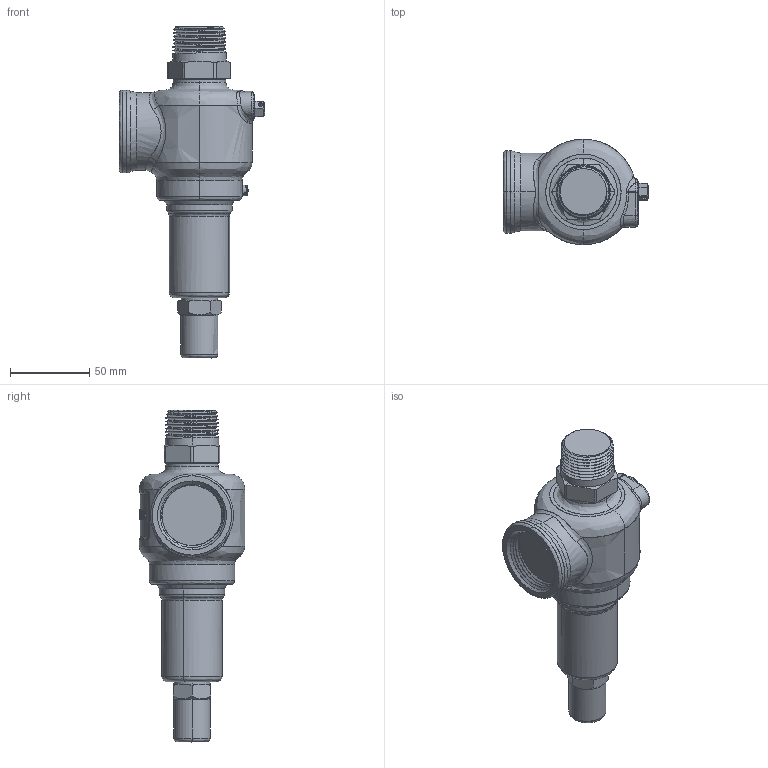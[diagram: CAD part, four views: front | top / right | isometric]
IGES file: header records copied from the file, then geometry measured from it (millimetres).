
Start section: SolidWorks IGES file using NURBS representation for surfaces
Global section: file name: C:\Design\Design\Aquatrol\Customer 3D Files\Series 740 Customer Files\E Orifice\Customer\Iges Files\Series 740 E 1000 x 1250 Closed Cap.IGS; native system: SolidWorks 2015; preprocessor: SolidWorks 2015; author: Karl; date: 150515.101923; units: inch
Bounding box: 92.19 x 66.67 x 209.99 mm (x, y, z)
Surface area: 43037.4 mm2 (no closed solid volume)
Topology: 0 solids, 0 shells, 332 faces, 6351 edges, 6351 vertices
Faces by surface type: bspline 332
